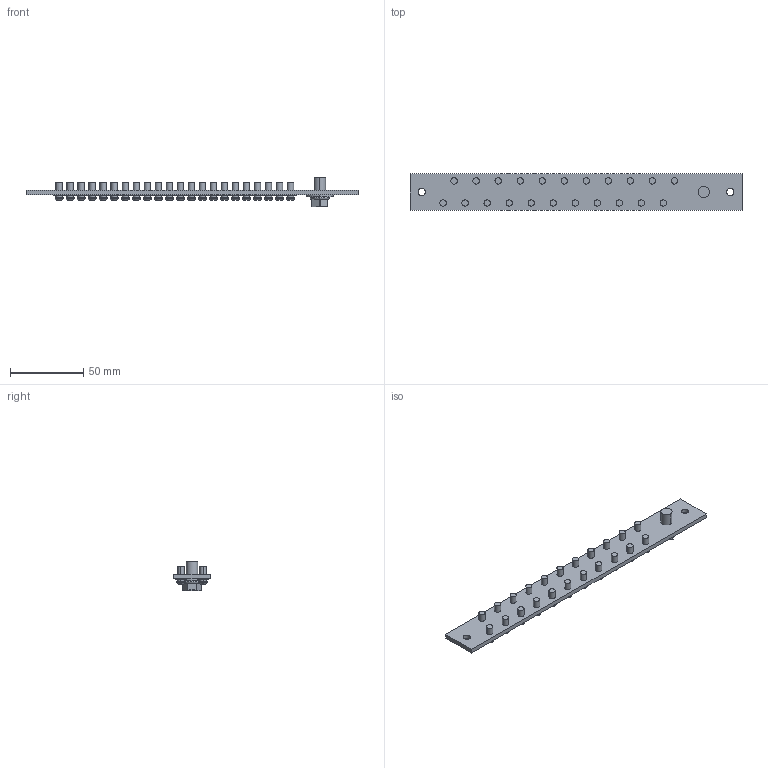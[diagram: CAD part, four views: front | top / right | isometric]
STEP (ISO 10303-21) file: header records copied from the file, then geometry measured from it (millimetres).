
FILE_DESCRIPTION(('Creo Elements/Direct Modeling STEP Export'),'2;1');
FILE_NAME('23.stp','2025-07-24T17:27:48',(''),(''),'PTC Creo Elements/Direct Modeling STEP processor for AP214 (Solid Model)','PTC Creo Elements/Direct Modeling 19.0 09-May-2014 (C) Parametric Technology GmbH','');
FILE_SCHEMA(('AUTOMOTIVE_DESIGN { 1 0 10303 214 1 1 1 1 }'));
Length unit declared in the file: millimetre
Products named in the file (16): SCREW_1_2_PRT.PRT; SCREW_1_1_PRT.PRT; SCREW_1_ASM.ASM; SCREW_0723_STP.ASM; QUILT_3-34740.PRT; QUILT_2-34360.PRT; QUILT_1-14960.PRT; USER_LIBRARY-SAN_ZU_HE_LUO-2060.PRT; M5_1_1_1_1_1_1_1_1_2.ASM; A1.ASM; CU.PRT; QUILT_3-86170.PRT; QUILT_2-85790.PRT; M5_1_1_1_1_1_1_1_1_1_1_1_1_1.ASM; 23N_1.ASM; 23.stp
Assembly tree (37 placements, depth 5):
  23.stp
    23N_1.ASM
      M5_1_1_1_1_1_1_1_1_1_1_1_1_1.ASM  x2
        QUILT_2-85790.PRT
        QUILT_3-86170.PRT
      CU.PRT
      A1.ASM
        M5_1_1_1_1_1_1_1_1_2.ASM  x11
          USER_LIBRARY-SAN_ZU_HE_LUO-2060.PRT
          QUILT_1-14960.PRT
          QUILT_2-34360.PRT
          QUILT_3-34740.PRT
      M5_1_1_1_1_1_1_1_1_2.ASM  x11
        USER_LIBRARY-SAN_ZU_HE_LUO-2060.PRT
        QUILT_1-14960.PRT
        QUILT_2-34360.PRT
        QUILT_3-34740.PRT
      SCREW_0723_STP.ASM
        SCREW_1_ASM.ASM
          SCREW_1_1_PRT.PRT
          SCREW_1_2_PRT.PRT
Bounding box: 226 x 25 x 20 mm (x, y, z)
Volume: 21963.2 mm3; surface area: 21750.8 mm2
Topology: 47 solids, 47 shells, 962 faces, 2436 edges, 1594 vertices
Faces by surface type: plane 538, cylinder 332, torus 92
Entity records: 5223 total; most frequent: CARTESIAN_POINT 816, DIRECTION 770, ORIENTED_EDGE 756, EDGE_CURVE 378, AXIS2_PLACEMENT_3D 293, VERTEX_POINT 250, EDGE_LOOP 202, VECTOR 184
